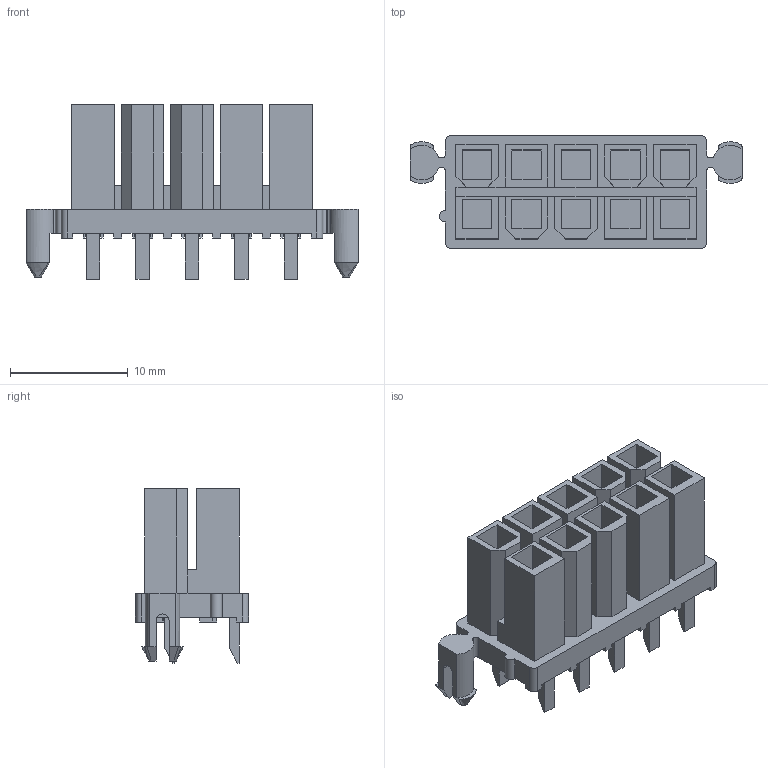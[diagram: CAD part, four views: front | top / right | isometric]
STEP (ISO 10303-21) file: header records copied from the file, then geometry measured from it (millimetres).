
FILE_DESCRIPTION((''),'2;1');
FILE_NAME('460101022','2016-07-15T',('rlalsangi'),(''),'PRO/ENGINEER BY PARAMETRIC TECHNOLOGY CORPORATION, 2012310','PRO/ENGINEER BY PARAMETRIC TECHNOLOGY CORPORATION, 2012310','');
FILE_SCHEMA(('CONFIG_CONTROL_DESIGN'));
Length unit declared in the file: millimetre
Products named in the file (1): 460101022
Bounding box: 28.2 x 9.6 x 14.84 mm (x, y, z)
Volume: 1054 mm3; surface area: 3061.5 mm2
Topology: 1 solids, 1 shells, 417 faces, 1106 edges, 738 vertices
Faces by surface type: plane 386, cylinder 19, bspline 8, cone 4
Entity records: 12937 total; most frequent: CARTESIAN_POINT 2562, ORIENTED_EDGE 2160, DIRECTION 1972, EDGE_CURVE 1080, VECTOR 996, LINE 996, VERTEX_POINT 710, AXIS2_PLACEMENT_3D 488
